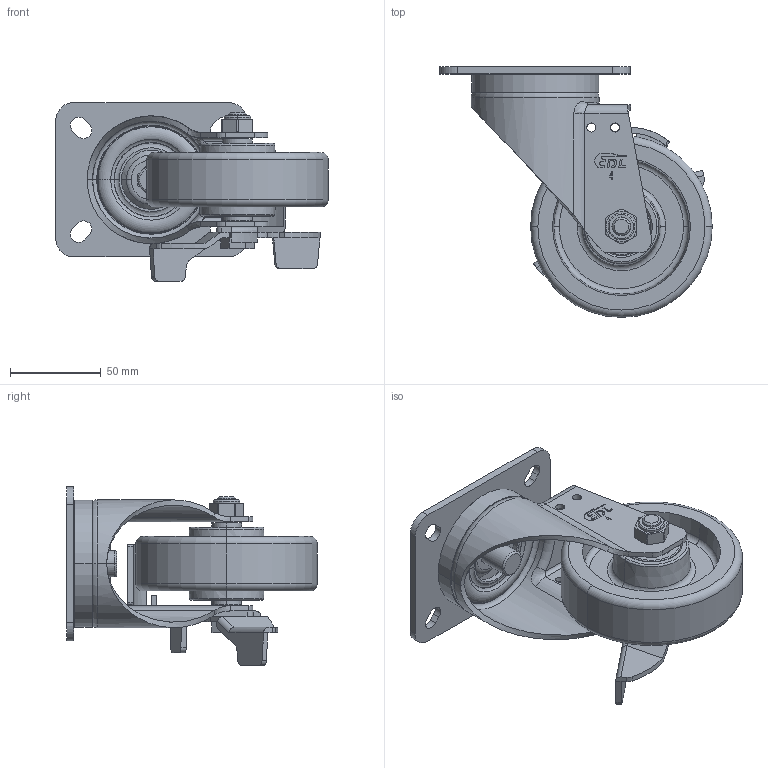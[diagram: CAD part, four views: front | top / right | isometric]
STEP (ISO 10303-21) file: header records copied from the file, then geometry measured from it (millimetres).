
FILE_DESCRIPTION((''),'2;1');
FILE_NAME('66124C_ASM_1_ASM','2024-04-27T',('Lenovo'),(''),'PRO/ENGINEER BY PARAMETRIC TECHNOLOGY CORPORATION, 2010280','PRO/ENGINEER BY PARAMETRIC TECHNOLOGY CORPORATION, 2010280','');
FILE_SCHEMA(('CONFIG_CONTROL_DESIGN'));
Length unit declared in the file: millimetre
Products named in the file (29): 6610-201_1; 6614-311_2; 6610-051_1; 6600-734_1; 674-986AA_3; MANIFOLD_SOLID_BREP_14988; MANIFOLD_SOLID_BREP_15356; MANIFOLD_SOLID_BREP_15394; MANIFOLD_SOLID_BREP_15432; MANIFOLD_SOLID_BREP_15470; MANIFOLD_SOLID_BREP_15508; MANIFOLD_SOLID_BREP_15546; MANIFOLD_SOLID_BREP_15584; MANIFOLD_SOLID_BREP_15622; MANIFOLD_SOLID_BREP_15660; MANIFOLD_SOLID_BREP_15698; MANIFOLD_SOLID_BREP_15736; MANIFOLD_SOLID_BREP_15774; MANIFOLD_SOLID_BREP_15812; MANIFOLD_SOLID_BREP_15850; 6201_1_ASM; 500-66_3; 630-54A_1; 674-86A_ASM_1_ASM; 6414-503_1; 6410-502_1; 6410-020C_2; 630-34_4; 66124C_ASM_1_ASM
Assembly tree (30 placements, depth 4):
  66124C_ASM_1_ASM
    6610-201_1
    6614-311_2
    6610-051_1
    6600-734_1
    674-86A_ASM_1_ASM
      674-986AA_3
      6201_1_ASM  x2
        MANIFOLD_SOLID_BREP_14988
        MANIFOLD_SOLID_BREP_15356
        MANIFOLD_SOLID_BREP_15394
        MANIFOLD_SOLID_BREP_15432
        MANIFOLD_SOLID_BREP_15470
        MANIFOLD_SOLID_BREP_15508
        MANIFOLD_SOLID_BREP_15546
        MANIFOLD_SOLID_BREP_15584
        MANIFOLD_SOLID_BREP_15622
        MANIFOLD_SOLID_BREP_15660
        MANIFOLD_SOLID_BREP_15698
        MANIFOLD_SOLID_BREP_15736
        MANIFOLD_SOLID_BREP_15774
        MANIFOLD_SOLID_BREP_15812
        MANIFOLD_SOLID_BREP_15850
      500-66_3  x2
      630-54A_1
    6414-503_1
    6410-502_1
    6410-020C_2
    630-34_4
Bounding box: 150 x 138 x 98.5 mm (x, y, z)
Volume: 267297.8 mm3; surface area: 125974.7 mm2
Topology: 42 solids, 42 shells, 604 faces, 1589 edges, 983 vertices
Faces by surface type: plane 214, cylinder 171, torus 85, sphere 80, cone 46, bspline 8
Entity records: 18223 total; most frequent: CARTESIAN_POINT 4308, DIRECTION 3107, ORIENTED_EDGE 2658, EDGE_CURVE 1329, AXIS2_PLACEMENT_3D 1260, VERTEX_POINT 874, CIRCLE 657, EDGE_LOOP 599
